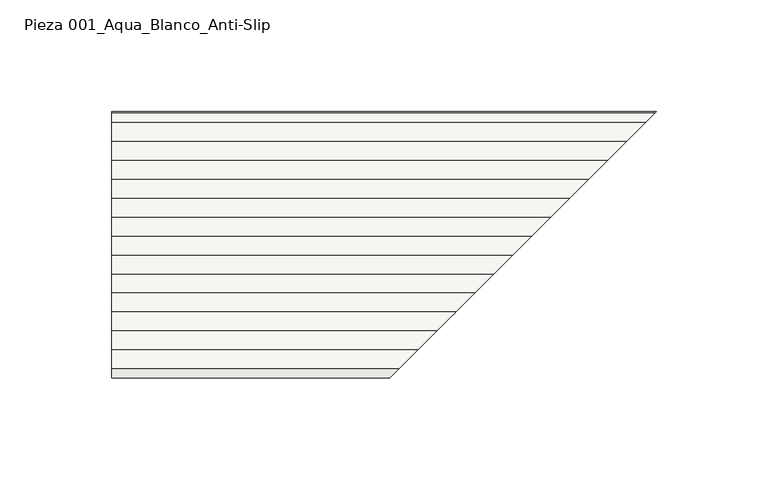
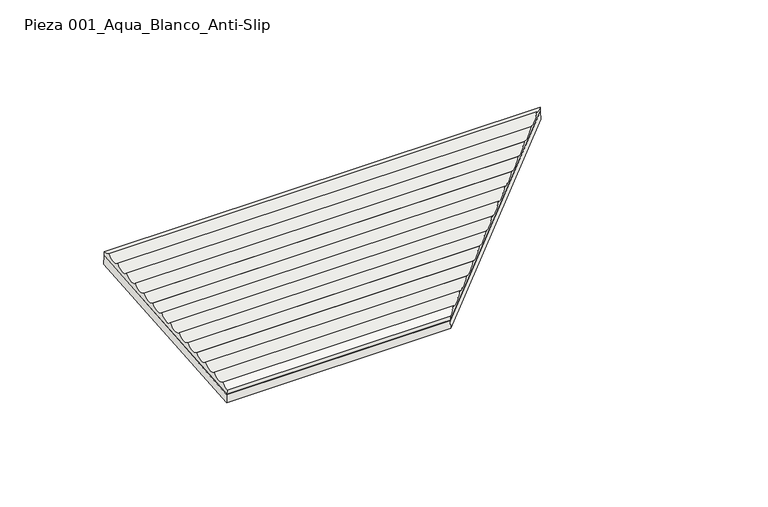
"""IFC4 building model written with IfcOpenShell, lengths in millimetres: slab geometry, ROSA GRES_001 (corte) : Pieza 001_Aqua_Blanco_Anti-Slip."""

from ifc_helpers import new_model, si_unit, frame, origin, place, context, project, spatial, polyline, circle_curve, ellipse_curve, faceted_brep, source, transform, mapped, element, save
from ifc_brep_helpers import plane_surface, revolved_surface, advanced_brep


def pieza_001_aqua_blanco_anti_slip_76647fb7(model_context):
    return source(origin(), model_context, "Body", "SolidModel", [
        faceted_brep([(0.0, 119.2261842, 9.6540866), (0.0, 0.6188345, 0.0), (0.0, 0.2131992, 4.9835188), (0.0, 118.820549, 14.6376055), (243.5, 119.2261842, 9.6540866), (124.8926503, 0.6188345, 0.0), (124.487015, 0.2131992, 4.9835188), (243.0943647, 118.820549, 14.6376055)], [[[0, 1, 2, 3]], [[1, 0, 4, 5]], [[2, 1, 5, 6]], [[0, 3, 7, 4]], [[3, 2, 6, 7]], [[5, 4, 7, 6]]]),
        advanced_brep(
        [(0.0, 118.820549, 14.6376055), (0.0, 0.2131992, 4.9835188), (0.0, 0.0, 7.6028236), (0.0, 4.0771219, 9.8992581), (0.0, 12.5490754, 10.5888357), (0.0, 21.021029, 11.2784133), (0.0, 29.4929825, 11.967991), (0.0, 37.9649361, 12.6575686), (0.0, 46.4368897, 13.3471462), (0.0, 54.9088432, 14.0367238), (0.0, 63.3807968, 14.7263014), (0.0, 71.8527503, 15.415879), (0.0, 80.3247039, 16.1054567), (0.0, 88.7966574, 16.7950343), (0.0, 97.268611, 17.4846119), (0.0, 105.7405645, 18.1741895), (0.0, 114.2125181, 18.8637671), (0.0, 118.6073497, 17.2569102), (243.0943647, 118.820549, 14.6376055), (124.487015, 0.2131992, 4.9835188), (124.2738158, 0.0, 7.6028236), (128.3509377, 4.0771219, 9.8992581), (136.8228912, 12.5490754, 10.5888357), (145.2948448, 21.021029, 11.2784133), (153.7667983, 29.4929825, 11.967991), (162.2387519, 37.9649361, 12.6575686), (170.7107054, 46.4368897, 13.3471462), (179.182659, 54.9088432, 14.0367238), (187.6546125, 63.3807968, 14.7263014), (196.1265661, 71.8527503, 15.415879), (204.5985196, 80.3247039, 16.1054567), (213.0704732, 88.7966574, 16.7950343), (221.5424268, 97.268611, 17.4846119), (230.0143803, 105.7405645, 18.1741895), (238.4863339, 114.2125181, 18.8637671), (242.8811655, 118.6073497, 17.2569102)],
        [
            (0, 1),
            (1, 2),
            (2, 3, circle_curve(frame((0.0, -0.4536033, 13.1756639), z_axis=(1.0, 0.0, 0.0), x_axis=(0.0, 1.0, 0.0)), 5.5912705)),
            (3, 4, circle_curve(frame((0.0, 8.0183503, 13.8652415), z_axis=(1.0, 0.0, 0.0), x_axis=(0.0, 1.0, 0.0)), 5.5912705)),
            (4, 5, circle_curve(frame((0.0, 16.4903038, 14.5548191), z_axis=(1.0, 0.0, 0.0), x_axis=(0.0, 1.0, 0.0)), 5.5912705)),
            (5, 6, circle_curve(frame((0.0, 24.9622574, 15.2443968), z_axis=(1.0, 0.0, 0.0), x_axis=(0.0, 1.0, 0.0)), 5.5912705)),
            (6, 7, circle_curve(frame((0.0, 33.4342109, 15.9339744), z_axis=(1.0, 0.0, 0.0), x_axis=(0.0, 1.0, 0.0)), 5.5912705)),
            (7, 8, circle_curve(frame((0.0, 41.9061645, 16.623552), z_axis=(1.0, 0.0, 0.0), x_axis=(0.0, 1.0, 0.0)), 5.5912705)),
            (8, 9, circle_curve(frame((0.0, 50.378118, 17.3131296), z_axis=(1.0, 0.0, 0.0), x_axis=(0.0, 1.0, 0.0)), 5.5912705)),
            (9, 10, circle_curve(frame((0.0, 58.8500716, 18.0027072), z_axis=(1.0, 0.0, 0.0), x_axis=(0.0, 1.0, 0.0)), 5.5912705)),
            (10, 11, circle_curve(frame((0.0, 67.3220251, 18.6922848), z_axis=(1.0, 0.0, 0.0), x_axis=(0.0, 1.0, 0.0)), 5.5912705)),
            (11, 12, circle_curve(frame((0.0, 75.7939787, 19.3818624), z_axis=(1.0, 0.0, 0.0), x_axis=(0.0, 1.0, 0.0)), 5.5912705)),
            (12, 13, circle_curve(frame((0.0, 84.2659322, 20.0714401), z_axis=(1.0, 0.0, 0.0), x_axis=(0.0, 1.0, 0.0)), 5.5912705)),
            (13, 14, circle_curve(frame((0.0, 92.7378858, 20.7610177), z_axis=(1.0, 0.0, 0.0), x_axis=(0.0, 1.0, 0.0)), 5.5912705)),
            (14, 15, circle_curve(frame((0.0, 101.2098393, 21.4505953), z_axis=(1.0, 0.0, 0.0), x_axis=(0.0, 1.0, 0.0)), 5.5912705)),
            (15, 16, circle_curve(frame((0.0, 109.6817929, 22.1401729), z_axis=(1.0, 0.0, 0.0), x_axis=(0.0, 1.0, 0.0)), 5.5912705)),
            (16, 17, circle_curve(frame((0.0, 118.1537465, 22.8297505), z_axis=(1.0, 0.0, 0.0), x_axis=(0.0, 1.0, 0.0)), 5.5912705)),
            (17, 0),
            (0, 18),
            (18, 19),
            (19, 1),
            (19, 20),
            (20, 2),
            (20, 21, ellipse_curve(frame((123.8202125, -0.4536033, 13.1756639), z_axis=(0.7071067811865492, -0.7071067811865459, 0.0), x_axis=(0.7071067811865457, 0.7071067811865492, 0.0)), 7.9072505, 5.5912705)),
            (21, 3),
            (21, 22, ellipse_curve(frame((132.2921661, 8.0183503, 13.8652415), z_axis=(0.7071067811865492, -0.7071067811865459, 0.0), x_axis=(0.7071067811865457, 0.7071067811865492, 0.0)), 7.9072505, 5.5912705)),
            (22, 4),
            (22, 23, ellipse_curve(frame((140.7641196, 16.4903038, 14.5548191), z_axis=(0.7071067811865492, -0.7071067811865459, 0.0), x_axis=(0.7071067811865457, 0.7071067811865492, 0.0)), 7.9072505, 5.5912705)),
            (23, 5),
            (23, 24, ellipse_curve(frame((149.2360732, 24.9622574, 15.2443968), z_axis=(0.7071067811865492, -0.7071067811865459, 0.0), x_axis=(0.7071067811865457, 0.7071067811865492, 0.0)), 7.9072505, 5.5912705)),
            (24, 6),
            (24, 25, ellipse_curve(frame((157.7080267, 33.4342109, 15.9339744), z_axis=(0.7071067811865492, -0.7071067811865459, 0.0), x_axis=(0.7071067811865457, 0.7071067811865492, 0.0)), 7.9072505, 5.5912705)),
            (25, 7),
            (25, 26, ellipse_curve(frame((166.1799803, 41.9061645, 16.623552), z_axis=(0.7071067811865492, -0.7071067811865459, 0.0), x_axis=(0.7071067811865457, 0.7071067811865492, 0.0)), 7.9072505, 5.5912705)),
            (26, 8),
            (26, 27, ellipse_curve(frame((174.6519338, 50.378118, 17.3131296), z_axis=(0.7071067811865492, -0.7071067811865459, 0.0), x_axis=(0.7071067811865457, 0.7071067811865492, 0.0)), 7.9072505, 5.5912705)),
            (27, 9),
            (27, 28, ellipse_curve(frame((183.1238874, 58.8500716, 18.0027072), z_axis=(0.7071067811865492, -0.7071067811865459, 0.0), x_axis=(0.7071067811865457, 0.7071067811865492, 0.0)), 7.9072505, 5.5912705)),
            (28, 10),
            (28, 29, ellipse_curve(frame((191.5958409, 67.3220251, 18.6922848), z_axis=(0.7071067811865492, -0.7071067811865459, 0.0), x_axis=(0.7071067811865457, 0.7071067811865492, 0.0)), 7.9072505, 5.5912705)),
            (29, 11),
            (29, 30, ellipse_curve(frame((200.0677945, 75.7939787, 19.3818624), z_axis=(0.7071067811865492, -0.7071067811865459, 0.0), x_axis=(0.7071067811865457, 0.7071067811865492, 0.0)), 7.9072505, 5.5912705)),
            (30, 12),
            (30, 31, ellipse_curve(frame((208.539748, 84.2659322, 20.0714401), z_axis=(0.7071067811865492, -0.7071067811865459, 0.0), x_axis=(0.7071067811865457, 0.7071067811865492, 0.0)), 7.9072505, 5.5912705)),
            (31, 13),
            (31, 32, ellipse_curve(frame((217.0117016, 92.7378858, 20.7610177), z_axis=(0.7071067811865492, -0.7071067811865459, 0.0), x_axis=(0.7071067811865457, 0.7071067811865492, 0.0)), 7.9072505, 5.5912705)),
            (32, 14),
            (32, 33, ellipse_curve(frame((225.4836551, 101.2098393, 21.4505953), z_axis=(0.7071067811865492, -0.7071067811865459, 0.0), x_axis=(0.7071067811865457, 0.7071067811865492, 0.0)), 7.9072505, 5.5912705)),
            (33, 15),
            (33, 34, ellipse_curve(frame((233.9556087, 109.6817929, 22.1401729), z_axis=(0.7071067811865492, -0.7071067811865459, 0.0), x_axis=(0.7071067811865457, 0.7071067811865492, 0.0)), 7.9072505, 5.5912705)),
            (34, 16),
            (34, 35, ellipse_curve(frame((242.4275622, 118.1537465, 22.8297505), z_axis=(0.7071067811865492, -0.7071067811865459, 0.0), x_axis=(0.7071067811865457, 0.7071067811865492, 0.0)), 7.9072505, 5.5912705)),
            (35, 17),
            (35, 18),
        ],
        [
            plane_surface(frame((0.0, 0.0, 0.0), z_axis=(-1.0, 0.0, 0.0), x_axis=(0.0, 0.0, 1.0))),
            plane_surface(frame((0.0, 118.820549, 14.6376055), z_axis=(0.0, 0.08112705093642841, -0.9967037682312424), x_axis=(1.0, 0.0, 0.0))),
            plane_surface(frame((0.0, 0.2131992, 4.9835188), z_axis=(0.0, -0.9967037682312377, -0.08112705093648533), x_axis=(1.0, 0.0, 0.0))),
            revolved_surface(polyline([(129.4114829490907, 5.1376672, 13.1756639), (0.0, 5.1376672, 13.1756639)]), (0.0, -0.4536033, 13.1756639), (1.0, 0.0, 0.0)),
            revolved_surface(polyline([(137.8834365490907, 13.6096208, 13.8652415), (0.0, 13.6096208, 13.8652415)]), (0.0, 8.0183503, 13.8652415), (1.0, 0.0, 0.0)),
            revolved_surface(polyline([(146.3553900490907, 22.0815743, 14.5548191), (0.0, 22.0815743, 14.5548191)]), (0.0, 16.4903038, 14.5548191), (1.0, 0.0, 0.0)),
            revolved_surface(polyline([(154.8273436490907, 30.5535279, 15.2443968), (0.0, 30.5535279, 15.2443968)]), (0.0, 24.9622574, 15.2443968), (1.0, 0.0, 0.0)),
            revolved_surface(polyline([(163.2992971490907, 39.0254814, 15.9339744), (0.0, 39.0254814, 15.9339744)]), (0.0, 33.4342109, 15.9339744), (1.0, 0.0, 0.0)),
            revolved_surface(polyline([(171.7712507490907, 47.497435, 16.623552), (0.0, 47.497435, 16.623552)]), (0.0, 41.9061645, 16.623552), (1.0, 0.0, 0.0)),
            revolved_surface(polyline([(180.2432042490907, 55.9693885, 17.3131296), (0.0, 55.9693885, 17.3131296)]), (0.0, 50.378118, 17.3131296), (1.0, 0.0, 0.0)),
            revolved_surface(polyline([(188.7151578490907, 64.4413421, 18.0027072), (0.0, 64.4413421, 18.0027072)]), (0.0, 58.8500716, 18.0027072), (1.0, 0.0, 0.0)),
            revolved_surface(polyline([(197.1871113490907, 72.9132956, 18.6922848), (0.0, 72.9132956, 18.6922848)]), (0.0, 67.3220251, 18.6922848), (1.0, 0.0, 0.0)),
            revolved_surface(polyline([(205.6590649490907, 81.3852492, 19.3818624), (0.0, 81.3852492, 19.3818624)]), (0.0, 75.7939787, 19.3818624), (1.0, 0.0, 0.0)),
            revolved_surface(polyline([(214.1310184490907, 89.85720269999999, 20.0714401), (0.0, 89.85720269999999, 20.0714401)]), (0.0, 84.2659322, 20.0714401), (1.0, 0.0, 0.0)),
            revolved_surface(polyline([(222.6029720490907, 98.3291563, 20.7610177), (0.0, 98.3291563, 20.7610177)]), (0.0, 92.7378858, 20.7610177), (1.0, 0.0, 0.0)),
            revolved_surface(polyline([(231.0749255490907, 106.8011098, 21.4505953), (0.0, 106.8011098, 21.4505953)]), (0.0, 101.2098393, 21.4505953), (1.0, 0.0, 0.0)),
            revolved_surface(polyline([(239.5468791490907, 115.27306340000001, 22.1401729), (0.0, 115.27306340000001, 22.1401729)]), (0.0, 109.6817929, 22.1401729), (1.0, 0.0, 0.0)),
            revolved_surface(polyline([(248.0188326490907, 123.74501699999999, 22.8297505), (0.0, 123.74501699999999, 22.8297505)]), (0.0, 118.1537465, 22.8297505), (1.0, 0.0, 0.0)),
            plane_surface(frame((0.0, 118.6073497, 17.2569102), z_axis=(0.0, 0.9967037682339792, 0.08112705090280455), x_axis=(1.0, 0.0, 0.0))),
            plane_surface(frame((244.0, 119.7261842, 104.9871832), z_axis=(0.7071067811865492, -0.7071067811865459, 0.0), x_axis=(0.0, 0.0, -1.0))),
        ],
        [
            (0, [[1, 2, 3, 4, 5, 6, 7, 8, 9, 10, 11, 12, 13, 14, 15, 16, 17, 18]]),
            (1, [[-1, 19, 20, 21]]),
            (2, [[-2, -21, 22, 23]]),
            (3, [[-3, -23, 24, 25]]),
            (4, [[-4, -25, 26, 27]]),
            (5, [[-5, -27, 28, 29]]),
            (6, [[-6, -29, 30, 31]]),
            (7, [[-7, -31, 32, 33]]),
            (8, [[-8, -33, 34, 35]]),
            (9, [[-9, -35, 36, 37]]),
            (10, [[-10, -37, 38, 39]]),
            (11, [[-11, -39, 40, 41]]),
            (12, [[-12, -41, 42, 43]]),
            (13, [[-13, -43, 44, 45]]),
            (14, [[-14, -45, 46, 47]]),
            (15, [[-15, -47, 48, 49]]),
            (16, [[-16, -49, 50, 51]]),
            (17, [[-17, -51, 52, 53]]),
            (18, [[-18, -53, 54, -19]]),
            (19, [[-20, -54, -52, -50, -48, -46, -44, -42, -40, -38, -36, -34, -32, -30, -28, -26, -24, -22]]),
        ],
    ),
    ])


if __name__ == "__main__":
    model = new_model("IFC4")
    model_context = context("Model", 3, world=origin())
    ifc_project = project(units=[si_unit("LENGTHUNIT", "METRE", prefix="MILLI")], contexts=[model_context])
    site = spatial("IfcSite", under=ifc_project)
    building = spatial("IfcBuilding", under=site)
    placement = place(None, origin())
    pieza_001_aqua_blanco_anti_slip_shape = pieza_001_aqua_blanco_anti_slip_76647fb7(model_context)
    element("IfcSlab", 1, ObjectType="ROSA GRES_001 (corte) : Pieza 001_Aqua_Blanco_Anti-Slip", at=placement, inside=building, context=model_context, shape_type="MappedRepresentation", body=[
        mapped(pieza_001_aqua_blanco_anti_slip_shape, transform((0.0, 0.0, 0.0), x_axis=(1.0, 0.0, 0.0), y_axis=(0.0, 1.0, 0.0), z_axis=(0.0, 0.0, 1.0))),
    ])
    save(model, "model.ifc")
